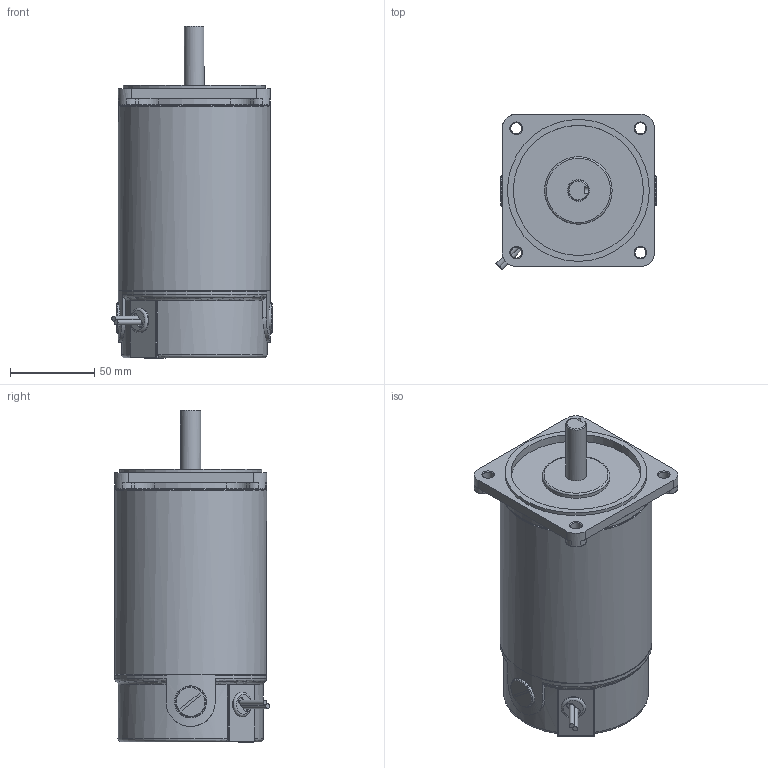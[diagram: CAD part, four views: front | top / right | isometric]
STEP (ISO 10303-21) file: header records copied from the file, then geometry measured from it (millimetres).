
FILE_DESCRIPTION((''),'2;1');
FILE_NAME('\\192.168.5.4\오메가연구소\DC CAD\02 - DC MOTOR 설계 - CAD FILE\DC MOTOR 3D 도면\표준 3D 파일\90각\200W\S9D200--ㅁK.stp','2014-06-16T19:56:52',('ycw1227'),(''),'Autodesk Inventor 2011','Autodesk Inventor 2011','');
FILE_SCHEMA(('AUTOMOTIVE_DESIGN { 1 0 10303 214 1 1 1 1 }'));
Length unit declared in the file: millimetre
Products named in the file (1): 부품32
Bounding box: 94.79 x 91.63 x 196.5 mm (x, y, z)
Volume: 1005844.3 mm3; surface area: 68287.4 mm2
Topology: 2 solids, 4 shells, 188 faces, 436 edges, 269 vertices
Faces by surface type: plane 76, cylinder 65, torus 31, cone 13, sphere 2, bspline 1
Full cylindrical faces by diameter (mm): 3 x2, 5 x3, 6.5 x4, 12 x1, 13 x1, 14.63 x1, 14.65 x1, 18 x2, 19 x2, 40 x1, 77 x1, 84 x1, 90 x2
Entity records: 5680 total; most frequent: CARTESIAN_POINT 1346, DIRECTION 949, ORIENTED_EDGE 796, EDGE_CURVE 398, AXIS2_PLACEMENT_3D 397, VERTEX_POINT 264, EDGE_LOOP 243, CIRCLE 209
